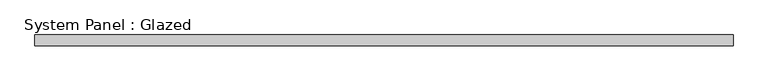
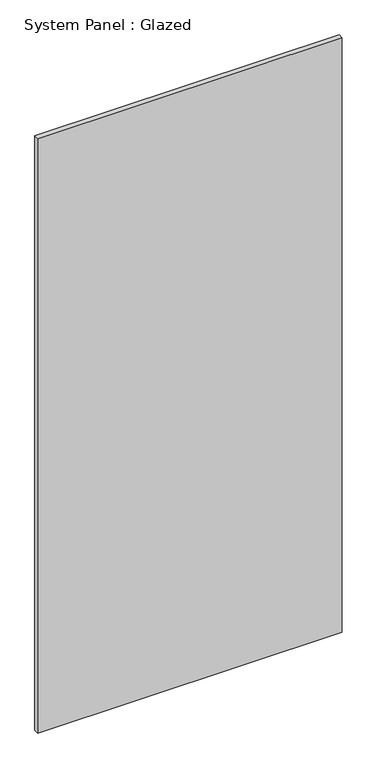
"""IFC4 building model written with IfcOpenShell, lengths in millimetres: plate geometry, System Panel : Glazed."""

from ifc_helpers import new_model, si_unit, origin, origin_with_axes, place, context, project, spatial, polyline, outline, extrude, source, transform, mapped, element, save


def system_panel_glazed_0a5cd876(model_context):
    return source(origin(), model_context, "Body", "SweptSolid", [
        extrude(outline(polyline([(800.0, 24.5), (-800.0, 24.5), (-800.0, 49.5), (800.0, 49.5), (800.0, 24.5)])), origin_with_axes(), (0.0, 0.0, 1.0), 3300.0),
    ])


if __name__ == "__main__":
    model = new_model("IFC4")
    model_context = context("Model", 3, world=origin())
    ifc_project = project(units=[si_unit("LENGTHUNIT", "METRE", prefix="MILLI")], contexts=[model_context])
    site = spatial("IfcSite", under=ifc_project)
    building = spatial("IfcBuilding", under=site)
    placement = place(None, origin())
    system_panel_glazed_shape = system_panel_glazed_0a5cd876(model_context)
    element("IfcPlate", 1, ObjectType="System Panel : Glazed", at=placement, inside=building, context=model_context, shape_type="MappedRepresentation", body=[
        mapped(system_panel_glazed_shape, transform((0.0, 0.0, 0.0), x_axis=(1.0, 0.0, 0.0), y_axis=(0.0, 1.0, 0.0), z_axis=(0.0, 0.0, 1.0))),
    ])
    save(model, "model.ifc")
